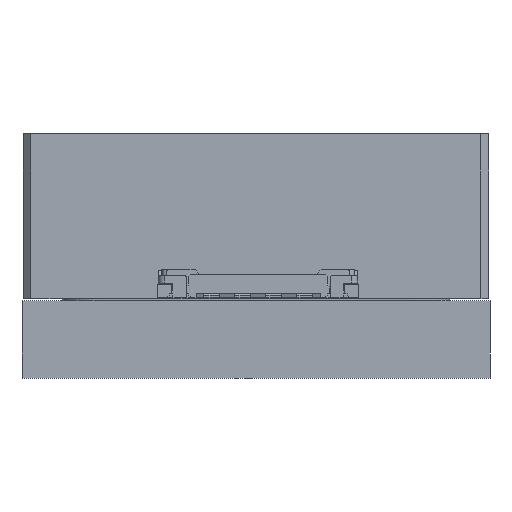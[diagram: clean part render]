
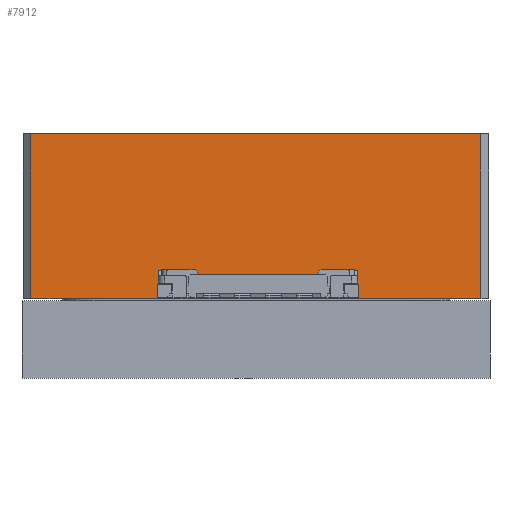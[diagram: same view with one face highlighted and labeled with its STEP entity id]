
A CAD part, front view. The second image highlights one B-rep face of the part: STEP entity #7912.
In plain terms, the highlighted planar face has unit normal (0, -1, 0) as drawn and (1, 0, 0) by its records, which use the part's own axes.
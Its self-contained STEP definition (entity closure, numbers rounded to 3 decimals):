
#352=FACE_OUTER_BOUND('',#781,.T.);
#781=EDGE_LOOP('',(#5287,#5288,#5289,#5290));
#1260=LINE('',#11307,#2264);
#1271=LINE('',#11328,#2275);
#1283=LINE('',#11353,#2287);
#1284=LINE('',#11355,#2288);
#2264=VECTOR('',#9063,10.);
#2275=VECTOR('',#9078,10.);
#2287=VECTOR('',#9098,10.);
#2288=VECTOR('',#9101,10.);
#3266=VERTEX_POINT('',#11304);
#3267=VERTEX_POINT('',#11306);
#3274=VERTEX_POINT('',#11325);
#3275=VERTEX_POINT('',#11327);
#4050=EDGE_CURVE('',#3266,#3267,#1260,.T.);
#4061=EDGE_CURVE('',#3275,#3274,#1271,.T.);
#4075=EDGE_CURVE('',#3274,#3267,#1283,.T.);
#4076=EDGE_CURVE('',#3266,#3275,#1284,.T.);
#5287=ORIENTED_EDGE('',*,*,#4076,.T.);
#5288=ORIENTED_EDGE('',*,*,#4061,.T.);
#5289=ORIENTED_EDGE('',*,*,#4075,.T.);
#5290=ORIENTED_EDGE('',*,*,#4050,.F.);
#7565=PLANE('',#8401);
#7912=ADVANCED_FACE('',(#352),#7565,.T.);
#8401=AXIS2_PLACEMENT_3D('',#11354,#9099,#9100);
#9063=DIRECTION('',(0.,0.,-1.));
#9078=DIRECTION('',(0.,0.,-1.));
#9098=DIRECTION('',(0.,1.,0.));
#9099=DIRECTION('center_axis',(1.,0.,0.));
#9100=DIRECTION('ref_axis',(0.,0.,-1.));
#9101=DIRECTION('',(0.,-1.,0.));
#11304=CARTESIAN_POINT('',(29.558,4.25,11.8));
#11306=CARTESIAN_POINT('',(29.558,4.25,0.2));
#11307=CARTESIAN_POINT('',(29.558,4.25,9.));
#11325=CARTESIAN_POINT('',(29.558,0.,0.2));
#11327=CARTESIAN_POINT('',(29.558,0.,11.8));
#11328=CARTESIAN_POINT('',(29.558,0.,9.));
#11353=CARTESIAN_POINT('',(29.558,3.75,0.2));
#11354=CARTESIAN_POINT('Origin',(29.558,0.,12.));
#11355=CARTESIAN_POINT('',(29.558,0.,11.8));
